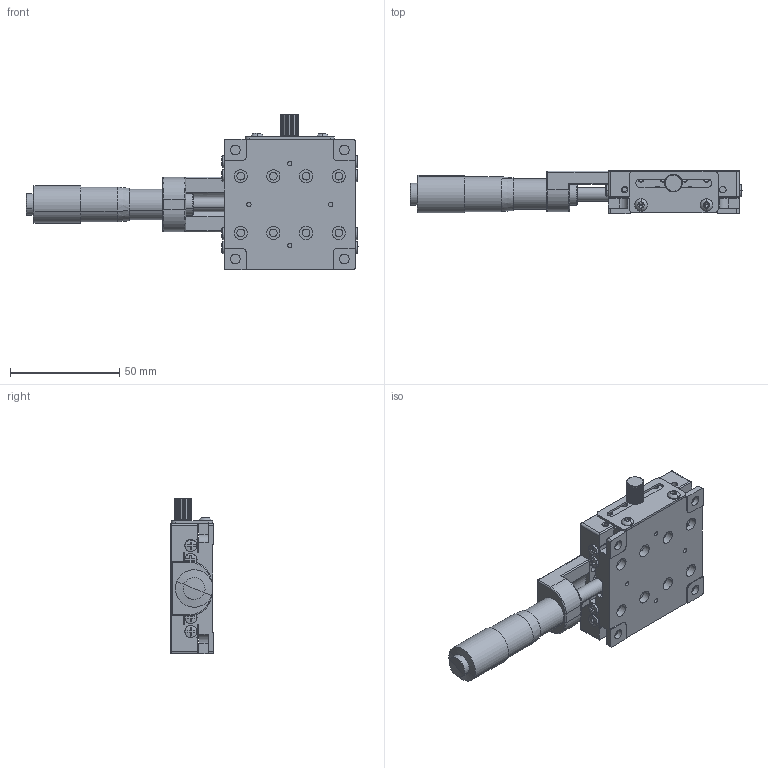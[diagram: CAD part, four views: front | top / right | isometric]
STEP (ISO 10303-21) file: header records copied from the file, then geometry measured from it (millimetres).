
FILE_DESCRIPTION (( 'STEP AP203' ), '1' );
FILE_NAME ('M-TCSJ60Z-10-BR.STEP', '2019-11-13T03:35:09', ( '¦K¬P' ), ( '' ), 'SwSTEP 2.0', 'SolidWorks 2019', '' );
FILE_SCHEMA (( 'CONFIG_CONTROL_DESIGN' ));
Length unit declared in the file: millimetre
Products named in the file (1): M-TCSJ60Z-10-BR
Bounding box: 152.26 x 20 x 71.5 mm (x, y, z)
Volume: 74715.7 mm3; surface area: 38635.2 mm2
Topology: 12 solids, 23 shells, 1153 faces, 2835 edges, 1767 vertices
Faces by surface type: plane 536, cylinder 457, cone 106, torus 28, bspline 16, sphere 10
Entity records: 34109 total; most frequent: CARTESIAN_POINT 7003, DIRECTION 5699, ORIENTED_EDGE 5510, EDGE_CURVE 2755, AXIS2_PLACEMENT_3D 2092, VERTEX_POINT 1767, LINE 1515, VECTOR 1515
